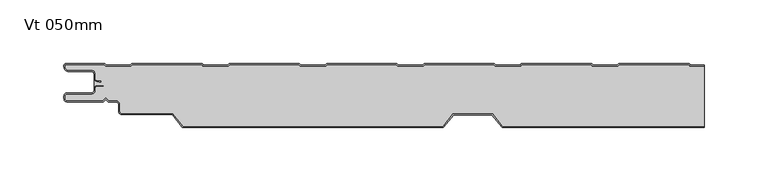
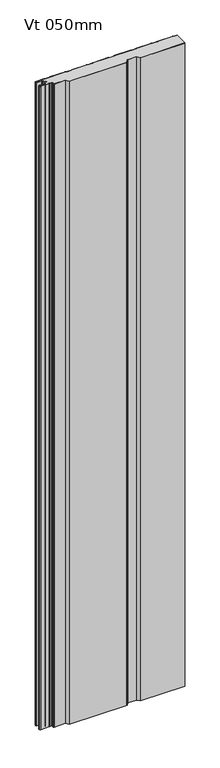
"""IFC4 building model written with IfcOpenShell, lengths in millimetres: plate geometry, KIP-MEX-KW-R19-CP-Vt-KW3_SL : Vt 050mm."""

from ifc_helpers import new_model, si_unit, point, frame_2d, origin, origin_with_axes, place, context, project, spatial, polyline, circle_curve, trimmed, segment, composite_curve, outline, extrude, source, transform, mapped, element, save


def vt_050mm_93b16b37(model_context):
    return source(origin(), model_context, "Body", "SweptSolid", [
        extrude(outline(composite_curve([segment(polyline([(225.9039135, -2.1994992), (236.9739551, -2.1994992), (236.9739551, -49.0), (79.6249413, -49.0), (71.6249413, -39.0), (40.6636916, -39.0), (32.6630907, -49.0007512), (-170.3679967, -49.0007512), (-178.2758107, -38.8807501), (-218.2556822, -38.8807501)]), True, "CONTINUOUS"), segment(trimmed(circle_curve(frame_2d((-218.2060101, -37.3815743)), 1.4999984), [point((-218.2556822, -38.8807501))], [point((-219.7060085, -37.3815743))], False, "CARTESIAN"), True, "CONTINUOUS"), segment(polyline([(-219.7060085, -37.3815743), (-219.7060085, -31.8815682)]), True, "CONTINUOUS"), segment(trimmed(circle_curve(frame_2d((-222.7060141, -31.8815682)), 3.0000056), [point((-219.7060085, -31.8815682))], [point((-222.7060141, -28.8815626))], True, "CARTESIAN"), True, "CONTINUOUS"), segment(polyline([(-222.7060141, -28.8815626), (-228.2917754, -28.8815626), (-230.7060114, -26.4674051), (-233.1202474, -28.8817196), (-261.0062104, -28.8817196)]), True, "CONTINUOUS"), segment(trimmed(circle_curve(frame_2d((-261.0062104, -27.3814897)), 1.5002298), [point((-261.0062104, -28.8817196))], [point((-262.5064402, -27.3814897))], False, "CARTESIAN"), True, "CONTINUOUS"), segment(polyline([(-262.5064402, -27.3814897), (-262.5064402, -25.3983418)]), True, "CONTINUOUS"), segment(trimmed(circle_curve(frame_2d((-261.0055873, -25.3983418)), 1.5008529), [point((-262.5064402, -25.3983418))], [point((-261.0430722, -23.8979571))], False, "CARTESIAN"), True, "CONTINUOUS"), segment(polyline([(-261.0430722, -23.8979571), (-242.0059123, -23.8979571)]), True, "CONTINUOUS"), segment(trimmed(circle_curve(frame_2d((-242.0059123, -20.8966056)), 3.0013516), [point((-242.0059123, -23.8979571))], [point((-239.0056877, -20.8143642))], True, "CARTESIAN"), True, "CONTINUOUS"), segment(polyline([(-239.0056877, -20.8143642), (-239.0056877, -19.3893811)]), True, "CONTINUOUS"), segment(trimmed(circle_curve(frame_2d((-237.5051476, -19.3893811)), 1.5005402), [point((-239.0056877, -19.3893811))], [point((-237.5062722, -17.8888414))], False, "CARTESIAN"), True, "CONTINUOUS"), segment(polyline([(-237.5062722, -17.8888414), (-232.2480455, -17.8888414), (-232.2480455, -16.8719911), (-237.5115852, -16.8719911)]), True, "CONTINUOUS"), segment(trimmed(circle_curve(frame_2d((-237.5097191, -19.3622712)), 2.4902807), [point((-237.5115852, -16.8719911))], [point((-239.9999998, -19.3622712))], True, "CARTESIAN"), True, "CONTINUOUS"), segment(polyline([(-239.9999998, -19.3622712), (-239.9999998, -11.7956848)]), True, "CONTINUOUS"), segment(trimmed(circle_curve(frame_2d((-237.507267, -11.5959632)), 2.500721), [point((-239.9999998, -11.7956848))], [point((-237.9396711, -14.0590167))], True, "CARTESIAN"), True, "CONTINUOUS"), segment(polyline([(-237.9396711, -14.0590167), (-234.3973739, -14.6808886), (-234.2244628, -13.6959552), (-237.7667627, -13.0740827)]), True, "CONTINUOUS"), segment(trimmed(circle_curve(frame_2d((-237.5072716, -11.5959732)), 1.5007143), [point((-237.7667627, -13.0740827))], [point((-239.0079859, -11.5959732))], False, "CARTESIAN"), True, "CONTINUOUS"), segment(polyline([(-239.0079859, -11.5959732), (-239.0079859, -8.000131)]), True, "CONTINUOUS"), segment(trimmed(circle_curve(frame_2d((-242.0093089, -8.002219)), 3.0013237), [point((-239.0079859, -8.000131))], [point((-242.0093089, -5.0008953))], True, "CARTESIAN"), True, "CONTINUOUS"), segment(polyline([(-242.0093089, -5.0008953), (-260.0061347, -5.0008953)]), True, "CONTINUOUS"), segment(trimmed(circle_curve(frame_2d((-260.0061347, -2.5012654)), 2.4996299), [point((-260.0061347, -5.0008953))], [point((-262.5057646, -2.5012654))], False, "CARTESIAN"), True, "CONTINUOUS"), segment(polyline([(-262.5057646, -2.5012654), (-262.5057646, -1.0), (-232.0999194, -1.0), (-231.0133951, -2.1994992), (-211.0814168, -2.1994992), (-209.9948925, -1.0), (-155.9470346, -1.0), (-154.8605103, -2.1994992), (-134.928532, -2.1994992), (-133.8420077, -1.0), (-79.7941498, -1.0), (-78.7076256, -2.1994992), (-58.7756472, -2.1994992), (-57.689123, -1.0), (-3.6412651, -1.0), (-2.5547408, -2.1994992), (17.3772375, -2.1994992), (18.4637618, -1.0), (72.5116197, -1.0), (73.598144, -2.1994992), (93.5301223, -2.1994992), (94.6152208, -1.0), (148.6645044, -1.0), (149.7510287, -2.1994992), (169.683007, -2.1994992), (170.7695313, -1.0), (224.8173892, -1.0), (225.9039135, -2.1994992)]), True, "CONTINUOUS")], self_intersect=False)), origin_with_axes(), (0.0, 0.0, 1.0), 2400.0),
        extrude(outline(composite_curve([segment(polyline([(226.3473579, -1.1979254), (236.9739551, -1.1979254), (236.9739551, -2.1979254), (225.9039135, -2.1979254), (224.8173892, -0.9984262), (170.7695313, -0.9984262), (169.683007, -2.1979254), (149.7510287, -2.1979254), (148.6645044, -0.9984262), (94.6166466, -0.9984262), (93.5301223, -2.1979254), (73.598144, -2.1979254), (72.5116197, -0.9984262), (18.462336, -0.9984262), (17.3772375, -2.1979254), (-2.5547408, -2.1979254), (-3.6412651, -0.9984262), (-57.6905487, -0.9984262), (-58.7756472, -2.1979254), (-78.7076256, -2.1979254), (-79.7941498, -0.9984262), (-133.8434335, -0.9984262), (-134.928532, -2.1979254), (-154.8605103, -2.1979254), (-155.9470346, -0.9984262), (-209.9963182, -0.9984262), (-211.0814168, -2.1979254), (-231.0133951, -2.1979254), (-232.0999194, -0.9984262), (-262.5058795, -0.9984262), (-262.5058795, -2.4998352)]), True, "CONTINUOUS"), segment(trimmed(circle_curve(frame_2d((-260.0060773, -2.4998352)), 2.4998022), [point((-262.5058795, -2.4998352))], [point((-260.0060773, -4.9996374))], True, "CARTESIAN"), True, "CONTINUOUS"), segment(polyline([(-260.0060773, -4.9996374), (-242.0051314, -4.9996374)]), True, "CONTINUOUS"), segment(trimmed(circle_curve(frame_2d((-242.0051314, -8.0003457)), 3.0007082), [point((-242.0051314, -4.9996374))], [point((-239.0044239, -7.9982581))], False, "CARTESIAN"), True, "CONTINUOUS"), segment(polyline([(-239.0044239, -7.9982581), (-239.0044239, -11.5945268)]), True, "CONTINUOUS"), segment(trimmed(circle_curve(frame_2d((-237.504025, -11.5945268)), 1.5003989), [point((-239.0044239, -11.5945268))], [point((-237.7635333, -13.072313))], True, "CARTESIAN"), True, "CONTINUOUS"), segment(polyline([(-237.7635333, -13.072313), (-234.2214587, -13.694323), (-234.3944392, -14.679371), (-237.9367138, -14.0573259)]), True, "CONTINUOUS"), segment(trimmed(circle_curve(frame_2d((-237.5042133, -11.5944251)), 2.5005873), [point((-237.9367138, -14.0573259))], [point((-240.0048002, -11.5958995))], False, "CARTESIAN"), True, "CONTINUOUS"), segment(polyline([(-240.0048002, -11.5958995), (-240.0048002, -7.9987586)]), True, "CONTINUOUS"), segment(trimmed(circle_curve(frame_2d((-242.0053159, -8.0002578)), 2.0005162), [point((-240.0048002, -7.9987586))], [point((-242.0053159, -5.9997416))], True, "CARTESIAN"), True, "CONTINUOUS"), segment(polyline([(-242.0053159, -5.9997416), (-260.0060748, -5.9997416)]), True, "CONTINUOUS"), segment(trimmed(circle_curve(frame_2d((-260.0060748, -2.4998716)), 3.49987), [point((-260.0060748, -5.9997416))], [point((-263.5059449, -2.4998716))], False, "CARTESIAN"), True, "CONTINUOUS"), segment(polyline([(-263.5059449, -2.4998716), (-263.5059449, -1.4999879)]), True, "CONTINUOUS"), segment(trimmed(circle_curve(frame_2d((-262.0059812, -1.4999879)), 1.4999637), [point((-263.5059449, -1.4999879))], [point((-262.0059812, -2.42e-05))], False, "CARTESIAN"), True, "CONTINUOUS"), segment(polyline([(-262.0059812, -2.42e-05), (-231.6550494, -2.42e-05), (-230.5699507, -1.1979254), (-211.5248611, -1.1979254), (-210.4383368, 0.0), (-155.5021646, 0.0), (-154.4170659, -1.1979254), (-135.3719764, -1.1979254), (-134.2854521, 0.0), (-79.3492799, 0.0), (-78.2641812, -1.1979254), (-59.2190916, -1.1979254), (-58.1325673, 0.0), (-3.1963951, 0.0), (-2.1112964, -1.1979254), (16.9337932, -1.1979254), (18.0203174, 0.0), (72.9564896, 0.0), (74.0415883, -1.1979254), (93.0866779, -1.1979254), (94.1732022, 0.0), (149.1093744, 0.0), (150.1944731, -1.1979254), (169.2395627, -1.1979254), (170.326087, 0.0), (225.2622592, 0.0), (226.3473579, -1.1979254)]), True, "CONTINUOUS")], self_intersect=False)), origin_with_axes(), (0.0, 0.0, 1.0), 2400.0),
        extrude(outline(composite_curve([segment(polyline([(79.6249413, -49.0), (236.9739551, -49.0), (236.9739551, -50.0), (79.1443164, -50.0), (71.1443164, -40.0), (41.1443164, -40.0), (33.1443164, -50.0), (-170.8556836, -50.0), (-178.7634976, -39.8799997), (-218.270141, -39.8799997)]), True, "CONTINUOUS"), segment(trimmed(circle_curve(frame_2d((-218.2060109, -37.3808228)), 2.4999995), [point((-218.270141, -39.8799997))], [point((-220.7060104, -37.3808228))], False, "CARTESIAN"), True, "CONTINUOUS"), segment(polyline([(-220.7060104, -37.3808228), (-220.7060104, -31.8808208)]), True, "CONTINUOUS"), segment(trimmed(circle_curve(frame_2d((-222.7060123, -31.8808208)), 2.0000019), [point((-220.7060104, -31.8808208))], [point((-222.7060123, -29.880819))], True, "CARTESIAN"), True, "CONTINUOUS"), segment(polyline([(-222.7060123, -29.880819), (-228.706004, -29.880819), (-230.7060114, -27.8808375), (-232.7060188, -29.8808707), (-261.006077, -29.8808707)]), True, "CONTINUOUS"), segment(trimmed(circle_curve(frame_2d((-261.006077, -27.3807949)), 2.5000758), [point((-261.006077, -29.8808707))], [point((-263.5061528, -27.3807949))], False, "CARTESIAN"), True, "CONTINUOUS"), segment(polyline([(-263.5061528, -27.3807949), (-263.5061528, -25.3981504)]), True, "CONTINUOUS"), segment(trimmed(circle_curve(frame_2d((-261.0058724, -25.3981504)), 2.5002804), [point((-263.5061528, -25.3981504))], [point((-261.0542462, -22.898338))], False, "CARTESIAN"), True, "CONTINUOUS"), segment(polyline([(-261.0542462, -22.898338), (-242.003626, -22.898338)]), True, "CONTINUOUS"), segment(trimmed(circle_curve(frame_2d((-242.003626, -20.8947114)), 2.0036267), [point((-242.003626, -22.898338))], [point((-239.9999998, -20.8932097))], True, "CARTESIAN"), True, "CONTINUOUS"), segment(polyline([(-239.9999998, -20.8932097), (-239.9999998, -19.36152)]), True, "CONTINUOUS"), segment(trimmed(circle_curve(frame_2d((-237.5097191, -19.36152)), 2.4902807), [point((-239.9999998, -19.36152))], [point((-237.5115852, -16.87124))], False, "CARTESIAN"), True, "CONTINUOUS"), segment(polyline([(-237.5115852, -16.87124), (-232.2480455, -16.87124), (-232.2480455, -17.8880902), (-237.5062722, -17.8880902)]), True, "CONTINUOUS"), segment(trimmed(circle_curve(frame_2d((-237.5051476, -19.38863)), 1.5005402), [point((-237.5062722, -17.8880902))], [point((-239.0056877, -19.38863))], True, "CARTESIAN"), True, "CONTINUOUS"), segment(polyline([(-239.0056877, -19.38863), (-239.0056877, -20.813613)]), True, "CONTINUOUS"), segment(trimmed(circle_curve(frame_2d((-242.0059123, -20.8958544)), 3.0013516), [point((-239.0056877, -20.813613))], [point((-242.0059123, -23.897206))], False, "CARTESIAN"), True, "CONTINUOUS"), segment(polyline([(-242.0059123, -23.897206), (-261.0430722, -23.8972059)]), True, "CONTINUOUS"), segment(trimmed(circle_curve(frame_2d((-261.0055873, -25.3975906)), 1.5008529), [point((-261.0430722, -23.8972059))], [point((-262.5064402, -25.3975906))], True, "CARTESIAN"), True, "CONTINUOUS"), segment(polyline([(-262.5064402, -25.3975906), (-262.5064402, -27.3807386)]), True, "CONTINUOUS"), segment(trimmed(circle_curve(frame_2d((-261.0062104, -27.3807386)), 1.5002298), [point((-262.5064402, -27.3807386))], [point((-261.0062104, -28.8809684))], True, "CARTESIAN"), True, "CONTINUOUS"), segment(polyline([(-261.0062104, -28.8809684), (-233.1202474, -28.8809684), (-230.7060114, -26.4666539), (-228.2917754, -28.8808114), (-222.7060141, -28.8808114)]), True, "CONTINUOUS"), segment(trimmed(circle_curve(frame_2d((-222.7060141, -31.8808171)), 3.0000056), [point((-222.7060141, -28.8808114))], [point((-219.7060085, -31.8808171))], False, "CARTESIAN"), True, "CONTINUOUS"), segment(polyline([(-219.7060085, -31.8808171), (-219.7060085, -37.3808232)]), True, "CONTINUOUS"), segment(trimmed(circle_curve(frame_2d((-218.2060101, -37.3808232)), 1.4999984), [point((-219.7060085, -37.3808232))], [point((-218.2556822, -38.879999))], True, "CARTESIAN"), True, "CONTINUOUS"), segment(polyline([(-218.2556822, -38.879999), (-178.2758107, -38.879999), (-170.3679967, -49.0), (32.6636916, -49.0), (40.6636916, -39.0), (71.6249413, -39.0), (79.6249413, -49.0)]), True, "CONTINUOUS")], self_intersect=False)), origin_with_axes(), (0.0, 0.0, 1.0), 2400.0),
    ])


if __name__ == "__main__":
    model = new_model("IFC4")
    model_context = context("Model", 3, world=origin())
    ifc_project = project(units=[si_unit("LENGTHUNIT", "METRE", prefix="MILLI")], contexts=[model_context])
    site = spatial("IfcSite", under=ifc_project)
    building = spatial("IfcBuilding", under=site)
    placement = place(None, origin())
    vt_050mm_shape = vt_050mm_93b16b37(model_context)
    element("IfcPlate", 1, ObjectType="KIP-MEX-KW-R19-CP-Vt-KW3_SL : Vt 050mm", at=placement, inside=building, context=model_context, shape_type="MappedRepresentation", body=[
        mapped(vt_050mm_shape, transform((0.0, 0.0, 0.0), x_axis=(1.0, 0.0, 0.0), y_axis=(0.0, 1.0, 0.0), z_axis=(0.0, 0.0, 1.0))),
    ])
    save(model, "model.ifc")
